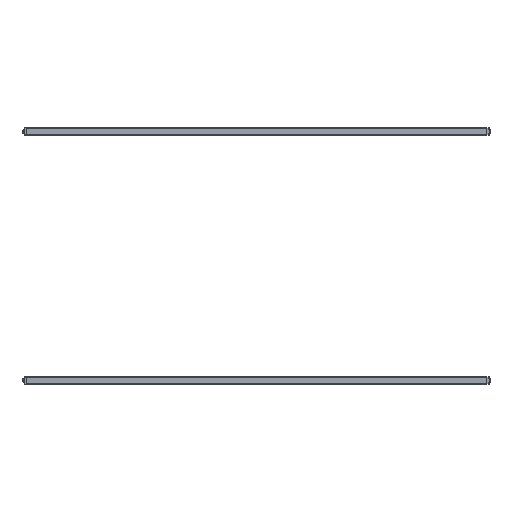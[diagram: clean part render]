
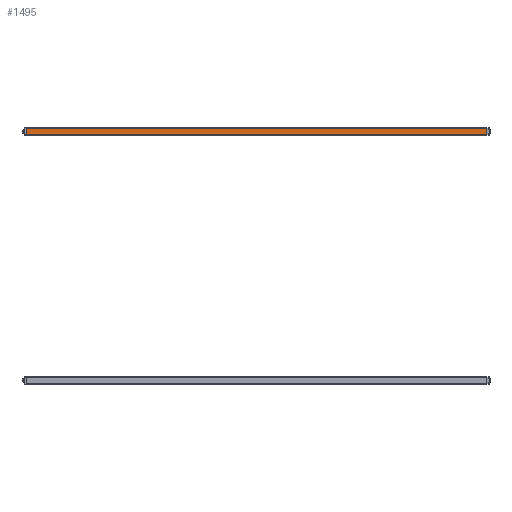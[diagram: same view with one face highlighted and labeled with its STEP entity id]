
A CAD part, front view. The second image highlights one B-rep face of the part: STEP entity #1495.
In plain terms, the highlighted planar face has unit normal (0, -1, 0).
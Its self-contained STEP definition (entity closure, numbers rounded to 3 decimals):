
#1495=ADVANCED_FACE('',(#2417),#2028,.T.);
#2028=PLANE('',#11681);
#2417=FACE_OUTER_BOUND('',#2936,.T.);
#2936=EDGE_LOOP('',(#6212,#6213,#6214,#6215));
#3504=LINE('',#15476,#4677);
#3606=LINE('',#15708,#4779);
#3694=LINE('',#15887,#4867);
#3695=LINE('',#15888,#4868);
#4677=VECTOR('',#12523,1.);
#4779=VECTOR('',#12669,1.);
#4867=VECTOR('',#12859,1.);
#4868=VECTOR('',#12860,1.);
#6212=ORIENTED_EDGE('',*,*,#9854,.T.);
#6213=ORIENTED_EDGE('',*,*,#10063,.T.);
#6214=ORIENTED_EDGE('',*,*,#9971,.F.);
#6215=ORIENTED_EDGE('',*,*,#10064,.F.);
#8861=VERTEX_POINT('',#15475);
#8862=VERTEX_POINT('',#15477);
#8969=VERTEX_POINT('',#15707);
#8970=VERTEX_POINT('',#15709);
#9854=EDGE_CURVE('',#8862,#8861,#3504,.T.);
#9971=EDGE_CURVE('',#8969,#8970,#3606,.T.);
#10063=EDGE_CURVE('',#8861,#8970,#3694,.T.);
#10064=EDGE_CURVE('',#8862,#8969,#3695,.T.);
#11681=AXIS2_PLACEMENT_3D('',#15889,#12861,#12862);
#12523=DIRECTION('',(0.,0.,-1.));
#12669=DIRECTION('',(0.,0.,-1.));
#12859=DIRECTION('',(1.,0.,0.));
#12860=DIRECTION('',(1.,0.,0.));
#12861=DIRECTION('',(0.,-1.,0.));
#12862=DIRECTION('',(0.,0.,-1.));
#15475=CARTESIAN_POINT('',(0.,-15.15,-12.));
#15476=CARTESIAN_POINT('',(0.,-15.15,12.));
#15477=CARTESIAN_POINT('',(0.,-15.15,12.));
#15707=CARTESIAN_POINT('',(1900.,-15.15,12.));
#15708=CARTESIAN_POINT('',(1900.,-15.15,0.));
#15709=CARTESIAN_POINT('',(1900.,-15.15,-12.));
#15887=CARTESIAN_POINT('',(0.,-15.15,-12.));
#15888=CARTESIAN_POINT('',(0.,-15.15,12.));
#15889=CARTESIAN_POINT('',(0.,-15.15,15.65));
